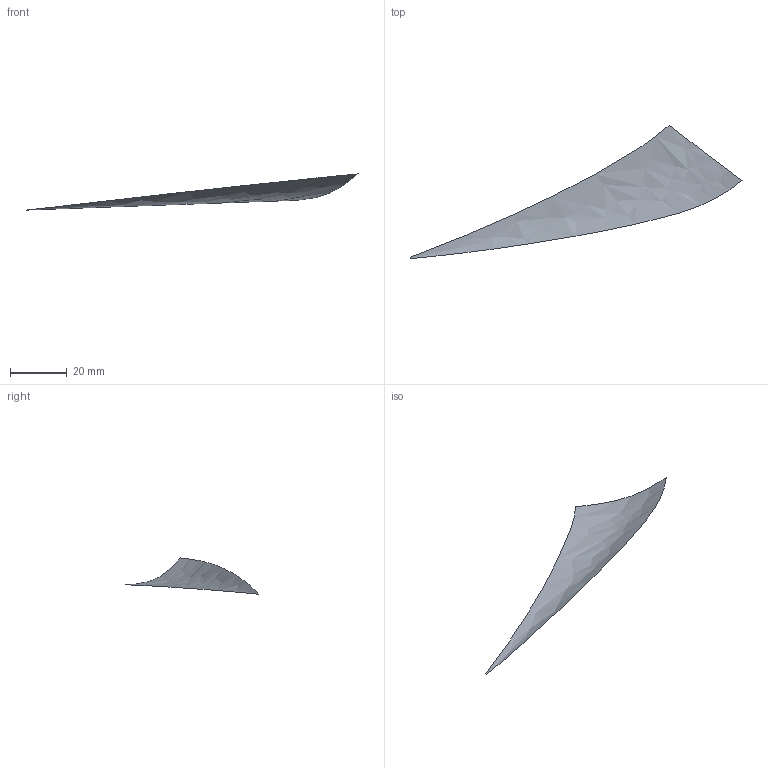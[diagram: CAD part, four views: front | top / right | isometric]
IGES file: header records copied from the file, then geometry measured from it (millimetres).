
Start section: START RECORD GO HERE
Global section: file name: t6.igs; native system: IBM CATIA IGES - CATIA SOLUTIONS V4RELEASE 1.9 REFRESH 01; preprocessor: CATIA SOLUTIONS V4RELEASE 1.9 REFRESH 01; author: cky; date: 990510.133752; units: millimetre
Bounding box: 116.52 x 46.8 x 12.71 mm (x, y, z)
Surface area: 1879.3 mm2 (no closed solid volume)
Topology: 0 solids, 0 shells, 1 faces, 24 edges, 24 vertices
Faces by surface type: bspline 1
